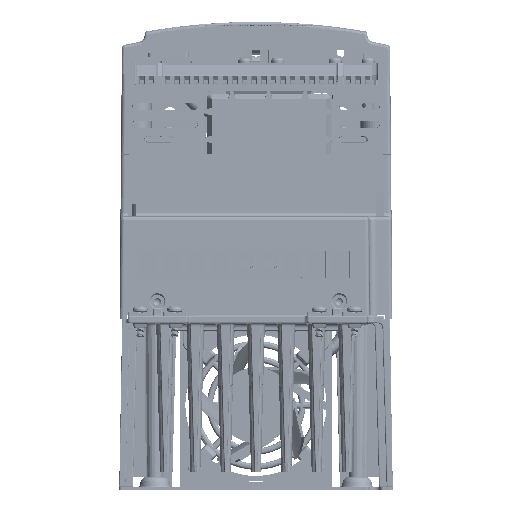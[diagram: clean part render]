
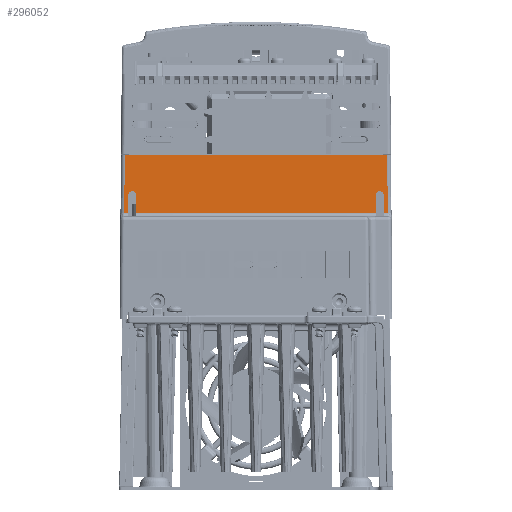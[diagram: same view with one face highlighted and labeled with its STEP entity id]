
A CAD part, front view. The second image highlights one B-rep face of the part: STEP entity #296052.
In plain terms, the highlighted planar face has unit normal (0, -1, 0.009).
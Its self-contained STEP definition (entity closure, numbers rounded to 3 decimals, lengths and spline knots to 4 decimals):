
#5993=ELLIPSE('',#313561,0.0591,0.0591);
#5996=ELLIPSE('',#313566,0.0591,0.0591);
#5998=ELLIPSE('',#313570,0.0591,0.0591);
#6000=ELLIPSE('',#313574,0.0591,0.0591);
#22940=FACE_OUTER_BOUND('',#39022,.T.);
#39022=EDGE_LOOP('',(#198629,#198630,#198631,#198632,#198633,#198634,#198635,
#198636,#198637,#198638,#198639,#198640,#198641,#198642,#198643,#198644,
#198645,#198646));
#62909=LINE('',#584333,#88962);
#62933=LINE('',#584397,#88986);
#63026=LINE('',#584617,#89079);
#63043=LINE('',#584665,#89096);
#63052=LINE('',#584687,#89105);
#63055=LINE('',#584698,#89108);
#63070=LINE('',#584732,#89123);
#63162=LINE('',#585146,#89215);
#63166=LINE('',#585174,#89219);
#63167=LINE('',#585175,#89220);
#63168=LINE('',#585177,#89221);
#63169=LINE('',#585178,#89222);
#63170=LINE('',#585180,#89223);
#63171=LINE('',#585181,#89224);
#88962=VECTOR('',#341744,0.3937);
#88986=VECTOR('',#341776,0.3937);
#89079=VECTOR('',#341895,0.3937);
#89096=VECTOR('',#341938,0.3937);
#89105=VECTOR('',#341955,0.3937);
#89108=VECTOR('',#341966,0.3937);
#89123=VECTOR('',#341989,0.3937);
#89215=VECTOR('',#342271,0.3937);
#89219=VECTOR('',#342285,0.3937);
#89220=VECTOR('',#342286,0.3937);
#89221=VECTOR('',#342287,0.3937);
#89222=VECTOR('',#342288,0.3937);
#89223=VECTOR('',#342289,0.3937);
#89224=VECTOR('',#342290,0.3937);
#117584=VERTEX_POINT('',#584330);
#117585=VERTEX_POINT('',#584332);
#117611=VERTEX_POINT('',#584394);
#117612=VERTEX_POINT('',#584396);
#117720=VERTEX_POINT('',#584655);
#117721=VERTEX_POINT('',#584656);
#117724=VERTEX_POINT('',#584664);
#117729=VERTEX_POINT('',#584675);
#117730=VERTEX_POINT('',#584677);
#117733=VERTEX_POINT('',#584685);
#117736=VERTEX_POINT('',#584692);
#117737=VERTEX_POINT('',#584694);
#117740=VERTEX_POINT('',#584704);
#117741=VERTEX_POINT('',#584706);
#117752=VERTEX_POINT('',#584730);
#117927=VERTEX_POINT('',#585100);
#117935=VERTEX_POINT('',#585176);
#117936=VERTEX_POINT('',#585179);
#148062=EDGE_CURVE('',#117584,#117585,#62909,.T.);
#148090=EDGE_CURVE('',#117611,#117612,#62933,.T.);
#148191=EDGE_CURVE('',#117585,#117611,#63026,.T.);
#148210=EDGE_CURVE('',#117720,#117721,#5993,.T.);
#148214=EDGE_CURVE('',#117724,#117721,#63043,.T.);
#148220=EDGE_CURVE('',#117729,#117730,#5996,.T.);
#148225=EDGE_CURVE('',#117729,#117733,#63052,.T.);
#148228=EDGE_CURVE('',#117736,#117737,#5998,.T.);
#148230=EDGE_CURVE('',#117736,#117730,#63055,.T.);
#148234=EDGE_CURVE('',#117740,#117741,#6000,.T.);
#148247=EDGE_CURVE('',#117740,#117752,#63070,.T.);
#148432=EDGE_CURVE('',#117720,#117741,#63162,.T.);
#148439=EDGE_CURVE('',#117927,#117737,#63166,.T.);
#148440=EDGE_CURVE('',#117724,#117733,#63167,.T.);
#148441=EDGE_CURVE('',#117935,#117752,#63168,.T.);
#148442=EDGE_CURVE('',#117612,#117935,#63169,.T.);
#148443=EDGE_CURVE('',#117936,#117584,#63170,.T.);
#148444=EDGE_CURVE('',#117927,#117936,#63171,.T.);
#198629=ORIENTED_EDGE('',*,*,#148439,.T.);
#198630=ORIENTED_EDGE('',*,*,#148228,.F.);
#198631=ORIENTED_EDGE('',*,*,#148230,.T.);
#198632=ORIENTED_EDGE('',*,*,#148220,.F.);
#198633=ORIENTED_EDGE('',*,*,#148225,.T.);
#198634=ORIENTED_EDGE('',*,*,#148440,.F.);
#198635=ORIENTED_EDGE('',*,*,#148214,.T.);
#198636=ORIENTED_EDGE('',*,*,#148210,.F.);
#198637=ORIENTED_EDGE('',*,*,#148432,.T.);
#198638=ORIENTED_EDGE('',*,*,#148234,.F.);
#198639=ORIENTED_EDGE('',*,*,#148247,.T.);
#198640=ORIENTED_EDGE('',*,*,#148441,.F.);
#198641=ORIENTED_EDGE('',*,*,#148442,.F.);
#198642=ORIENTED_EDGE('',*,*,#148090,.F.);
#198643=ORIENTED_EDGE('',*,*,#148191,.F.);
#198644=ORIENTED_EDGE('',*,*,#148062,.F.);
#198645=ORIENTED_EDGE('',*,*,#148443,.F.);
#198646=ORIENTED_EDGE('',*,*,#148444,.F.);
#270108=PLANE('',#313675);
#296052=ADVANCED_FACE('',(#22940),#270108,.F.);
#313561=AXIS2_PLACEMENT_3D('',#584657,#341930,#341931);
#313566=AXIS2_PLACEMENT_3D('',#584678,#341947,#341948);
#313570=AXIS2_PLACEMENT_3D('',#584695,#341961,#341962);
#313574=AXIS2_PLACEMENT_3D('',#584707,#341973,#341974);
#313675=AXIS2_PLACEMENT_3D('',#585173,#342283,#342284);
#341744=DIRECTION('',(1.,0.,0.));
#341776=DIRECTION('',(1.,0.,0.));
#341895=DIRECTION('',(1.,0.,0.));
#341930=DIRECTION('center_axis',(0.,-1.,
0.009));
#341931=DIRECTION('ref_axis',(0.,0.009,
1.));
#341938=DIRECTION('',(0.009,0.009,1.));
#341947=DIRECTION('center_axis',(0.,-1.,
0.009));
#341948=DIRECTION('ref_axis',(0.,0.009,
1.));
#341955=DIRECTION('',(0.009,-0.009,-1.));
#341961=DIRECTION('center_axis',(0.,-1.,
0.009));
#341962=DIRECTION('ref_axis',(0.,0.009,
1.));
#341966=DIRECTION('',(1.,0.,0.));
#341973=DIRECTION('center_axis',(0.,-1.,
0.009));
#341974=DIRECTION('ref_axis',(0.,0.009,
1.));
#341989=DIRECTION('',(0.009,-0.009,-1.));
#342271=DIRECTION('',(1.,0.,0.));
#342283=DIRECTION('center_axis',(0.,1.,
-0.009));
#342284=DIRECTION('ref_axis',(0.,0.009,
1.));
#342285=DIRECTION('',(0.009,0.009,1.));
#342286=DIRECTION('',(-1.,0.,0.));
#342287=DIRECTION('',(-1.,0.,0.));
#342288=DIRECTION('',(0.009,-0.009,-1.));
#342289=DIRECTION('',(0.009,0.009,1.));
#342290=DIRECTION('',(-1.,0.,0.));
#584330=CARTESIAN_POINT('',(-2.0447,-2.9511,2.5098));
#584332=CARTESIAN_POINT('',(-1.4961,-2.9511,2.5098));
#584333=CARTESIAN_POINT('',(-0.0001,-2.9511,2.5098));
#584394=CARTESIAN_POINT('',(1.496,-2.9511,2.5098));
#584396=CARTESIAN_POINT('',(2.0445,-2.9511,2.5098));
#584397=CARTESIAN_POINT('',(-0.0001,-2.9511,2.5098));
#584617=CARTESIAN_POINT('',(-0.0001,-2.9511,2.5098));
#584655=CARTESIAN_POINT('',(1.928,-2.9561,1.939));
#584656=CARTESIAN_POINT('',(1.869,-2.9566,1.8804));
#584657=CARTESIAN_POINT('Origin',(1.928,-2.9566,1.8799));
#584664=CARTESIAN_POINT('',(1.8665,-2.959,1.6038));
#584665=CARTESIAN_POINT('',(1.8654,-2.9601,1.4781));
#584675=CARTESIAN_POINT('',(-1.8691,-2.9566,1.8804));
#584677=CARTESIAN_POINT('',(-1.9281,-2.9561,1.939));
#584678=CARTESIAN_POINT('Origin',(-1.9281,-2.9566,1.8799));
#584685=CARTESIAN_POINT('',(-1.8667,-2.959,1.6038));
#584687=CARTESIAN_POINT('',(-1.8656,-2.9601,1.4788));
#584692=CARTESIAN_POINT('',(-1.932,-2.9561,1.939));
#584694=CARTESIAN_POINT('',(-1.9911,-2.9566,1.8804));
#584695=CARTESIAN_POINT('Origin',(-1.932,-2.9566,1.8799));
#584698=CARTESIAN_POINT('',(-0.9651,-2.9561,1.939));
#584704=CARTESIAN_POINT('',(1.991,-2.9566,1.8804));
#584706=CARTESIAN_POINT('',(1.9319,-2.9561,1.939));
#584707=CARTESIAN_POINT('Origin',(1.9319,-2.9566,1.8799));
#584730=CARTESIAN_POINT('',(1.9934,-2.959,1.6038));
#584732=CARTESIAN_POINT('',(1.9943,-2.96,1.4956));
#585100=CARTESIAN_POINT('',(-1.9935,-2.959,1.6038));
#585146=CARTESIAN_POINT('',(0.9649,-2.9561,1.939));
#585173=CARTESIAN_POINT('Origin',(-0.0001,-2.9595,
1.5453));
#585174=CARTESIAN_POINT('',(-1.9945,-2.96,1.4949));
#585175=CARTESIAN_POINT('',(-0.0001,-2.959,1.6038));
#585176=CARTESIAN_POINT('',(2.0524,-2.959,1.6038));
#585177=CARTESIAN_POINT('',(-0.0001,-2.959,1.6038));
#585178=CARTESIAN_POINT('',(2.0596,-2.9662,0.7837));
#585179=CARTESIAN_POINT('',(-2.0526,-2.959,1.6038));
#585180=CARTESIAN_POINT('',(-2.06,-2.9664,0.754));
#585181=CARTESIAN_POINT('',(-0.0001,-2.959,1.6038));
